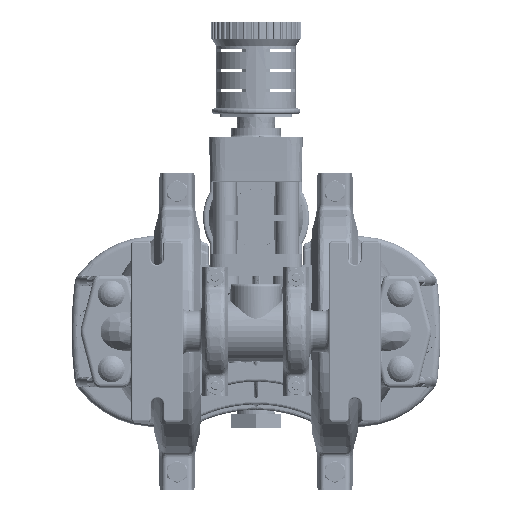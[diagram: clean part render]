
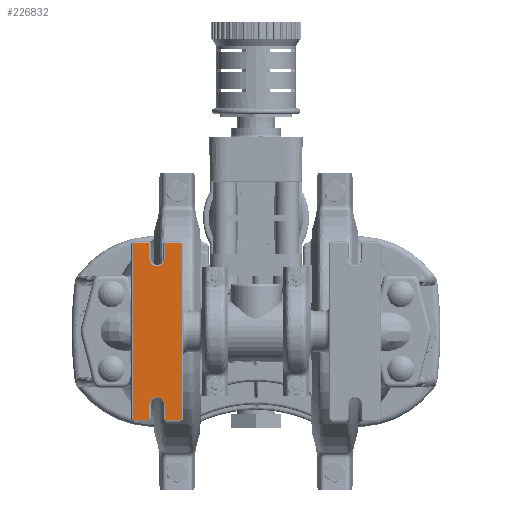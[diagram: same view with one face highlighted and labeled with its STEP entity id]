
A CAD part, front view. The second image highlights one B-rep face of the part: STEP entity #226832.
In plain terms, the highlighted planar face has unit normal (0, -1, 0).
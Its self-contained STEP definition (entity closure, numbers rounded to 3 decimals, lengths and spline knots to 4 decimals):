
#25704=DIRECTION('',(-1.,0.,0.));
#25705=VECTOR('',#25704,0.315);
#25706=CARTESIAN_POINT('',(-2.402,-4.59,1.975));
#25707=LINE('',#25706,#25705);
#25708=CARTESIAN_POINT('',(-2.402,-4.59,1.945));
#25709=DIRECTION('',(0.,-1.,0.));
#25710=DIRECTION('',(1.,0.,0.));
#25711=AXIS2_PLACEMENT_3D('',#25708,#25709,#25710);
#25732=DIRECTION('',(0.,0.,1.));
#25733=VECTOR('',#25732,0.32);
#25734=CARTESIAN_POINT('',(-2.372,-4.59,1.625));
#25735=LINE('',#25734,#25733);
#25804=DIRECTION('',(0.,0.,-1.));
#25805=VECTOR('',#25804,0.32);
#25806=CARTESIAN_POINT('',(-2.032,-4.59,1.945));
#25807=LINE('',#25806,#25805);
#25817=CARTESIAN_POINT('',(-2.202,-4.59,1.625));
#25818=DIRECTION('',(0.,1.,0.));
#25819=DIRECTION('',(1.,0.,0.));
#25820=AXIS2_PLACEMENT_3D('',#25817,#25818,#25819);
#25836=CARTESIAN_POINT('',(-2.002,-4.59,1.945));
#25837=DIRECTION('',(0.,-1.,0.));
#25838=DIRECTION('',(0.,0.,1.));
#25839=AXIS2_PLACEMENT_3D('',#25836,#25837,#25838);
#25896=DIRECTION('',(-1.,0.,0.));
#25897=VECTOR('',#25896,0.315);
#25898=CARTESIAN_POINT('',(-1.687,-4.59,1.975));
#25899=LINE('',#25898,#25897);
#25900=CARTESIAN_POINT('',(-1.687,-4.59,1.945));
#25901=DIRECTION('',(0.,-1.,0.));
#25902=DIRECTION('',(1.,0.,0.));
#25903=AXIS2_PLACEMENT_3D('',#25900,#25901,#25902);
#26254=DIRECTION('',(0.,0.,1.));
#26255=VECTOR('',#26254,3.89);
#26256=CARTESIAN_POINT('',(-1.657,-4.59,-1.945));
#26257=LINE('',#26256,#26255);
#26267=CARTESIAN_POINT('',(-1.687,-4.59,-1.945));
#26268=DIRECTION('',(0.,-1.,0.));
#26269=DIRECTION('',(0.,0.,-1.));
#26270=AXIS2_PLACEMENT_3D('',#26267,#26268,#26269);
#27083=DIRECTION('',(1.,0.,0.));
#27084=VECTOR('',#27083,0.315);
#27085=CARTESIAN_POINT('',(-2.002,-4.59,-1.975));
#27086=LINE('',#27085,#27084);
#27087=CARTESIAN_POINT('',(-2.002,-4.59,-1.945));
#27088=DIRECTION('',(0.,-1.,0.));
#27089=DIRECTION('',(-1.,0.,0.));
#27090=AXIS2_PLACEMENT_3D('',#27087,#27088,#27089);
#27147=DIRECTION('',(0.,0.,-1.));
#27148=VECTOR('',#27147,0.32);
#27149=CARTESIAN_POINT('',(-2.032,-4.59,-1.625));
#27150=LINE('',#27149,#27148);
#27151=CARTESIAN_POINT('',(-2.202,-4.59,-1.625));
#27152=DIRECTION('',(0.,1.,0.));
#27153=DIRECTION('',(-1.,0.,0.));
#27154=AXIS2_PLACEMENT_3D('',#27151,#27152,#27153);
#27202=DIRECTION('',(0.,0.,1.));
#27203=VECTOR('',#27202,0.32);
#27204=CARTESIAN_POINT('',(-2.372,-4.59,-1.945));
#27205=LINE('',#27204,#27203);
#27215=CARTESIAN_POINT('',(-2.402,-4.59,-1.945));
#27216=DIRECTION('',(0.,-1.,0.));
#27217=DIRECTION('',(0.,0.,-1.));
#27218=AXIS2_PLACEMENT_3D('',#27215,#27216,#27217);
#27275=DIRECTION('',(1.,0.,0.));
#27276=VECTOR('',#27275,0.315);
#27277=CARTESIAN_POINT('',(-2.717,-4.59,-1.975));
#27278=LINE('',#27277,#27276);
#27279=CARTESIAN_POINT('',(-2.717,-4.59,-1.945));
#27280=DIRECTION('',(0.,-1.,0.));
#27281=DIRECTION('',(-1.,0.,0.));
#27282=AXIS2_PLACEMENT_3D('',#27279,#27280,#27281);
#143123=CARTESIAN_POINT('',(-2.717,-4.59,1.945));
#143124=DIRECTION('',(0.,-1.,0.));
#143125=DIRECTION('',(0.,0.,1.));
#143126=AXIS2_PLACEMENT_3D('',#143123,#143124,#143125);
#143147=DIRECTION('',(0.,0.,-1.));
#143148=VECTOR('',#143147,3.89);
#143149=CARTESIAN_POINT('',(-2.747,-4.59,1.945));
#143150=LINE('',#143149,#143148);
#182532=CARTESIAN_POINT('',(-2.372,-4.59,1.625));
#182533=CARTESIAN_POINT('',(-2.372,-4.59,1.945));
#182534=VERTEX_POINT('',#182532);
#182535=VERTEX_POINT('',#182533);
#182536=CARTESIAN_POINT('',(-2.032,-4.59,1.625));
#182537=VERTEX_POINT('',#182536);
#182540=CARTESIAN_POINT('',(-2.032,-4.59,1.945));
#182541=VERTEX_POINT('',#182540);
#182548=CARTESIAN_POINT('',(-2.402,-4.59,1.975));
#182549=CARTESIAN_POINT('',(-2.717,-4.59,1.975));
#182550=VERTEX_POINT('',#182548);
#182551=VERTEX_POINT('',#182549);
#182556=CARTESIAN_POINT('',(-2.747,-4.59,1.945));
#182557=CARTESIAN_POINT('',(-2.747,-4.59,-1.945));
#182558=VERTEX_POINT('',#182556);
#182559=VERTEX_POINT('',#182557);
#182564=CARTESIAN_POINT('',(-2.717,-4.59,-1.975));
#182565=CARTESIAN_POINT('',(-2.402,-4.59,-1.975));
#182566=VERTEX_POINT('',#182564);
#182567=VERTEX_POINT('',#182565);
#182572=CARTESIAN_POINT('',(-2.032,-4.59,-1.625));
#182573=CARTESIAN_POINT('',(-2.032,-4.59,-1.945));
#182574=VERTEX_POINT('',#182572);
#182575=VERTEX_POINT('',#182573);
#182576=CARTESIAN_POINT('',(-2.372,-4.59,-1.625));
#182577=VERTEX_POINT('',#182576);
#182580=CARTESIAN_POINT('',(-2.372,-4.59,-1.945));
#182581=VERTEX_POINT('',#182580);
#182588=CARTESIAN_POINT('',(-2.002,-4.59,-1.975));
#182589=CARTESIAN_POINT('',(-1.687,-4.59,-1.975));
#182590=VERTEX_POINT('',#182588);
#182591=VERTEX_POINT('',#182589);
#182592=CARTESIAN_POINT('',(-1.657,-4.59,-1.945));
#182593=CARTESIAN_POINT('',(-1.657,-4.59,1.945));
#182594=VERTEX_POINT('',#182592);
#182595=VERTEX_POINT('',#182593);
#182604=CARTESIAN_POINT('',(-1.687,-4.59,1.975));
#182605=CARTESIAN_POINT('',(-2.002,-4.59,1.975));
#182606=VERTEX_POINT('',#182604);
#182607=VERTEX_POINT('',#182605);
#226787=CARTESIAN_POINT('',(-2.202,-4.59,0.));
#226788=DIRECTION('',(0.,1.,0.));
#226789=DIRECTION('',(1.,0.,0.));
#226790=AXIS2_PLACEMENT_3D('',#226787,#226788,#226789);
#226791=PLANE('',#226790);
#226793=ORIENTED_EDGE('',*,*,#226792,.F.);
#226795=ORIENTED_EDGE('',*,*,#226794,.F.);
#226797=ORIENTED_EDGE('',*,*,#226796,.F.);
#226799=ORIENTED_EDGE('',*,*,#226798,.F.);
#226801=ORIENTED_EDGE('',*,*,#226800,.F.);
#226803=ORIENTED_EDGE('',*,*,#226802,.F.);
#226805=ORIENTED_EDGE('',*,*,#226804,.F.);
#226807=ORIENTED_EDGE('',*,*,#226806,.F.);
#226809=ORIENTED_EDGE('',*,*,#226808,.F.);
#226811=ORIENTED_EDGE('',*,*,#226810,.F.);
#226813=ORIENTED_EDGE('',*,*,#226812,.F.);
#226815=ORIENTED_EDGE('',*,*,#226814,.F.);
#226817=ORIENTED_EDGE('',*,*,#226816,.F.);
#226819=ORIENTED_EDGE('',*,*,#226818,.F.);
#226821=ORIENTED_EDGE('',*,*,#226820,.F.);
#226823=ORIENTED_EDGE('',*,*,#226822,.F.);
#226825=ORIENTED_EDGE('',*,*,#226824,.F.);
#226827=ORIENTED_EDGE('',*,*,#226826,.F.);
#226828=ORIENTED_EDGE('',*,*,#226753,.F.);
#226829=ORIENTED_EDGE('',*,*,#226777,.F.);
#226830=EDGE_LOOP('',(#226793,#226795,#226797,#226799,#226801,#226803,#226805,
#226807,#226809,#226811,#226813,#226815,#226817,#226819,#226821,#226823,#226825,
#226827,#226828,#226829));
#226831=FACE_OUTER_BOUND('',#226830,.F.);
#226832=ADVANCED_FACE('',(#226831),#226791,.F.);
#25712=CIRCLE('',#25711,0.03);
#25821=CIRCLE('',#25820,0.17);
#25840=CIRCLE('',#25839,0.03);
#25904=CIRCLE('',#25903,0.03);
#26271=CIRCLE('',#26270,0.03);
#27091=CIRCLE('',#27090,0.03);
#27155=CIRCLE('',#27154,0.17);
#27219=CIRCLE('',#27218,0.03);
#27283=CIRCLE('',#27282,0.03);
#143127=CIRCLE('',#143126,0.03);
#226753=EDGE_CURVE('',#182550,#182551,#25707,.T.);
#226777=EDGE_CURVE('',#182535,#182550,#25712,.T.);
#226792=EDGE_CURVE('',#182534,#182535,#25735,.T.);
#226794=EDGE_CURVE('',#182537,#182534,#25821,.T.);
#226796=EDGE_CURVE('',#182541,#182537,#25807,.T.);
#226798=EDGE_CURVE('',#182607,#182541,#25840,.T.);
#226800=EDGE_CURVE('',#182606,#182607,#25899,.T.);
#226802=EDGE_CURVE('',#182595,#182606,#25904,.T.);
#226804=EDGE_CURVE('',#182594,#182595,#26257,.T.);
#226806=EDGE_CURVE('',#182591,#182594,#26271,.T.);
#226808=EDGE_CURVE('',#182590,#182591,#27086,.T.);
#226810=EDGE_CURVE('',#182575,#182590,#27091,.T.);
#226812=EDGE_CURVE('',#182574,#182575,#27150,.T.);
#226814=EDGE_CURVE('',#182577,#182574,#27155,.T.);
#226816=EDGE_CURVE('',#182581,#182577,#27205,.T.);
#226818=EDGE_CURVE('',#182567,#182581,#27219,.T.);
#226820=EDGE_CURVE('',#182566,#182567,#27278,.T.);
#226822=EDGE_CURVE('',#182559,#182566,#27283,.T.);
#226824=EDGE_CURVE('',#182558,#182559,#143150,.T.);
#226826=EDGE_CURVE('',#182551,#182558,#143127,.T.);
